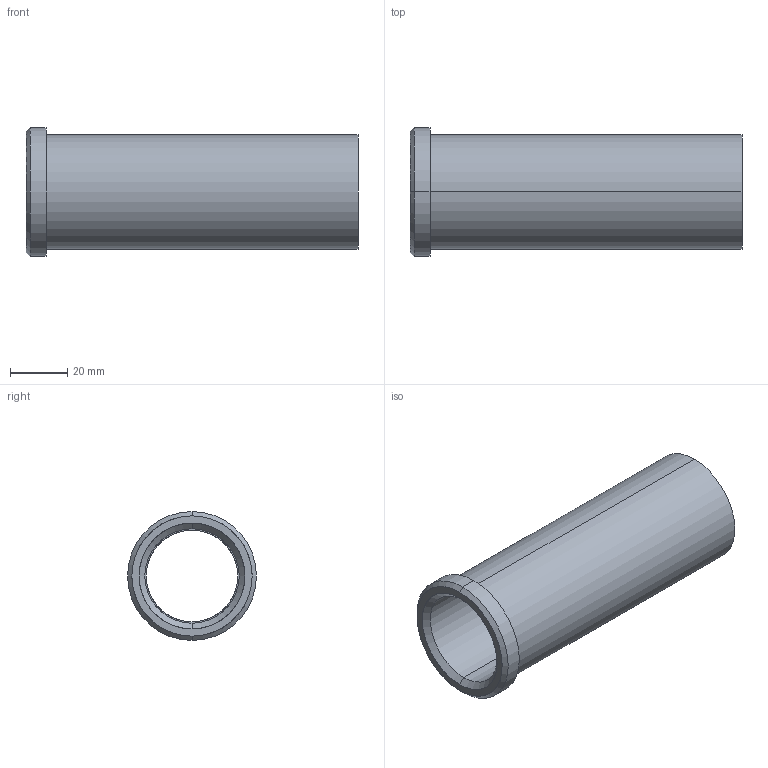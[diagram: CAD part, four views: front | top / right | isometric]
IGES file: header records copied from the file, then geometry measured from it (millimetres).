
Start section: START RECORD GO HERE.
Global section: file name: 353-32X116.igs; native system: DASSAULT SYSTEMES CATIA V5 R20 - www.3ds.com; preprocessor: CATIA Version 5 Release 20 ; author: Utente; organization: NB04-ASUS; date: 20210512.205126; units: millimetre
Bounding box: 116 x 45 x 45 mm (x, y, z)
Surface area: 27756.3 mm2 (no closed solid volume)
Topology: 0 solids, 0 shells, 18 faces, 116 edges, 116 vertices
Faces by surface type: revolution 14, plane 4
